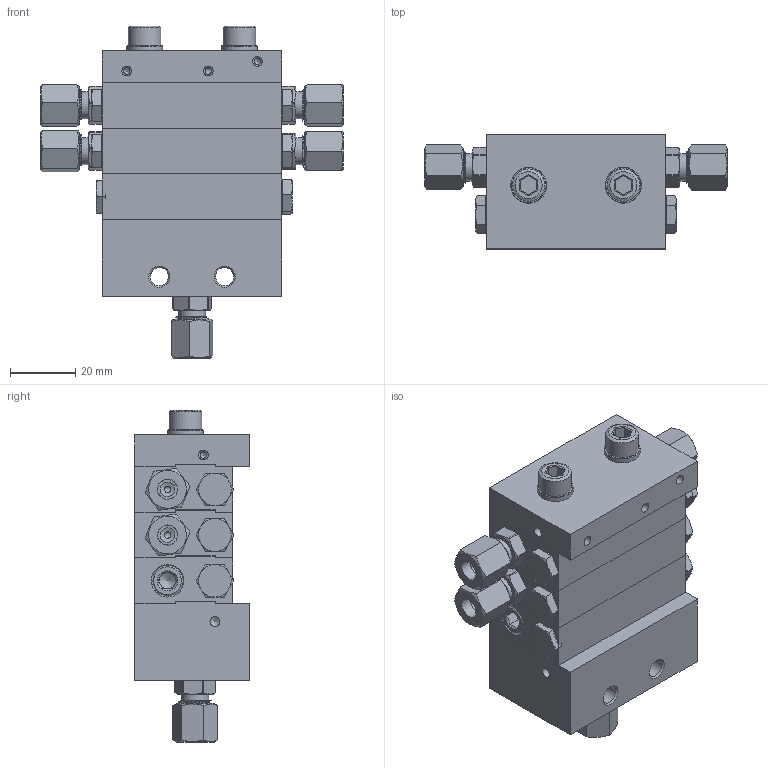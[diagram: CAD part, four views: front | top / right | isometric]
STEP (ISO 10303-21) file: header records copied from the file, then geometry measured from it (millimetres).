
FILE_DESCRIPTION (( 'STEP AP214' ), '1' );
FILE_NAME ('STW_XV_0143_04_050_4_Auslässe.STEP', '2026-01-28T14:22:41', ( '' ), ( '' ), 'SwSTEP 2.0', 'SolidWorks 2022', '' );
FILE_SCHEMA (( 'AUTOMOTIVE_DESIGN' ));
Length unit declared in the file: millimetre
Products named in the file (14): 991214010601_Koerper; STW_XV_Verbindungsstopen; 991214010601_Schneidring; STW_XV_END; 991214010601; STW_XV_0143_04_050_4_Auslässe; STW_XV_MITTEL_1; 991214010601_Mutter; M6X65_DIN_912; Verschlussstopfen_1_8_2; U_Scheibe_6; Verschlussstopfen_1_8; STW_XV_Kolbenanschlag; STW_XV_ENGANG
Assembly tree (34 placements, depth 3):
  STW_XV_0143_04_050_4_Auslässe
    STW_XV_ENGANG
    STW_XV_MITTEL_1  x3
    STW_XV_END
    Verschlussstopfen_1_8_2  x6
    STW_XV_Kolbenanschlag  x6
    STW_XV_Verbindungsstopen  x3
    M6X65_DIN_912  x2
    U_Scheibe_6  x2
    Verschlussstopfen_1_8  x2
    991214010601  x5
      991214010601_Koerper
      991214010601_Schneidring
      991214010601_Mutter
Bounding box: 92.76 x 35 x 101.68 mm (x, y, z)
Volume: 135978 mm3; surface area: 69233.1 mm2
Topology: 41 solids, 41 shells, 1443 faces, 3667 edges, 2354 vertices
Faces by surface type: plane 680, cylinder 391, cone 240, bspline 126, torus 6
Full cylindrical faces by diameter (mm): 2 x89, 3 x10, 4.5 x5, 5 x38, 5.5 x2, 5.9 x2, 6 x7, 6.2 x13, 6.4 x2, 6.5 x6, 7 x6, 7.4 x5, 7.67 x5, 8 x11, 8.3 x5, 8.4 x3, 8.6 x15, 9 x12, 9.7 x8, 9.73 x3, 9.8 x35, 10 x8, 11 x2, 15 x1
Entity records: 41312 total; most frequent: CARTESIAN_POINT 20621, ORIENTED_EDGE 2808, DIRECTION 2379, EDGE_CURVE 1404, VERTEX_POINT 997, EDGE_LOOP 925, AXIS2_PLACEMENT_3D 831, FACE_OUTER_BOUND 744
